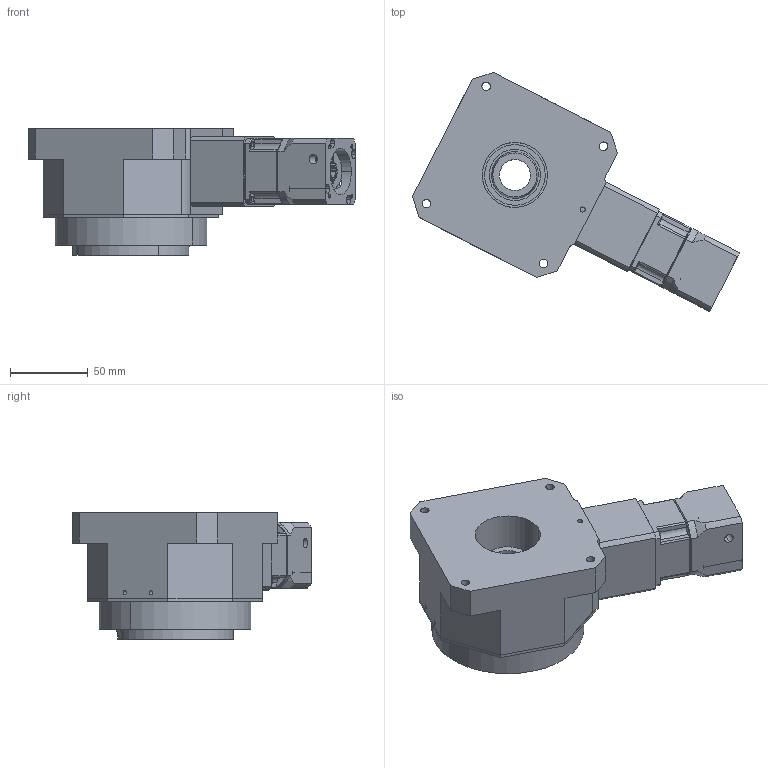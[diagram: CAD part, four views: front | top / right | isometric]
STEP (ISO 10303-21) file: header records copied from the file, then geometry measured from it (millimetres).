
FILE_DESCRIPTION (( 'STEP AP203' ), '1' );
FILE_NAME ('HTM105-L1-8-30-45.STEP', '2024-07-25T07:37:42', ( 'Windows User' ), ( 'P R C' ), 'SwSTEP 2.0', 'SolidWorks 2016', '' );
FILE_SCHEMA (( 'CONFIG_CONTROL_DESIGN' ));
Length unit declared in the file: millimetre
Products named in the file (16): PLF040-WZZ-8-30-M3-45-LR28_1123; HTM105-蚐猾ㄗ苤ㄘ; PLF040-SJH(坶踡遠謂11); HTM105訇喘綴楊擘; M3x12; 斜齿结构输入轴; HTM105-喘謫; 5X5X16; HTM105-怀堤粣; MAB042-L1-()-P0-8-30-45-M3; HTM105-͹̨; HTM105-L1-8-30-45; HTM105-眊极; HTM105-粣創; PLF040-CQ01; HTM105-蚐猾
Assembly tree (15 placements, depth 3):
  HTM105-L1-8-30-45
    HTM105-喘謫
    HTM105-怀堤粣
    HTM105-͹̨
    HTM105-眊极
    HTM105-粣創
    HTM105-蚐猾
    HTM105-蚐猾ㄗ苤ㄘ
    HTM105訇喘綴楊擘
    斜齿结构输入轴
    MAB042-L1-()-P0-8-30-45-M3
      PLF040-CQ01
      PLF040-WZZ-8-30-M3-45-LR28_1123
      PLF040-SJH(坶踡遠謂11)
      M3x12
      5X5X16
Bounding box: 210.96 x 154.11 x 81.5 mm (x, y, z)
Volume: 733204.5 mm3; surface area: 197005.6 mm2
Topology: 14 solids, 14 shells, 1327 faces, 3418 edges, 2193 vertices
Faces by surface type: plane 625, cylinder 407, cone 148, bspline 140, sphere 5, torus 2
Entity records: 47720 total; most frequent: CARTESIAN_POINT 14064, ORIENTED_EDGE 6680, DIRECTION 6312, EDGE_CURVE 3340, VERTEX_POINT 2193, AXIS2_PLACEMENT_3D 2133, VECTOR 2046, LINE 2046
